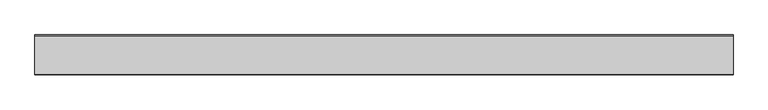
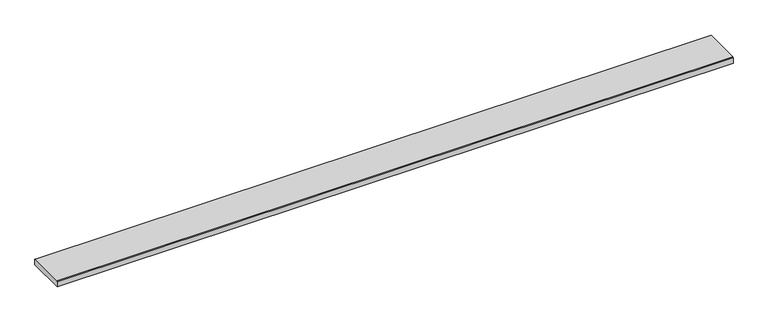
"""IFC4 building model written with IfcOpenShell, lengths in millimetres: proxy geometry."""

from ifc_helpers import new_model, si_unit, frame, origin, place, context, project, spatial, polyline, outline, extrude, source, transform, mapped, element, save


def generic_models_bd2edabb(model_context):
    return source(origin(), model_context, "Body", "SweptSolid", [
        extrude(outline(polyline([(0.0, 20.868936), (2.245064, 23.114), (137.454936, 23.114), (139.7, 20.868936), (139.7, 0.0), (0.0, 0.0), (0.0, 20.868936)])), frame((0.0, 0.0, 0.0), z_axis=(1.0, 0.0, 0.0), x_axis=(0.0, 1.0, 0.0)), (0.0, 0.0, 1.0), 2438.4),
    ])


if __name__ == "__main__":
    model = new_model("IFC4")
    model_context = context("Model", 3, world=origin())
    ifc_project = project(units=[si_unit("LENGTHUNIT", "METRE", prefix="MILLI")], contexts=[model_context])
    site = spatial("IfcSite", under=ifc_project)
    building = spatial("IfcBuilding", under=site)
    placement = place(None, origin())
    generic_models_shape = generic_models_bd2edabb(model_context)
    element("IfcBuildingElementProxy", 1, Name="540 Series Reversible Trim (Fiber) : 540 Series Reversible Trim (Fiber) - 5.5\"", ObjectType="540 Series Reversible Trim (Fiber) : 540 Series Reversible Trim (Fiber) - 5.5\"", at=placement, inside=building, context=model_context, shape_type="MappedRepresentation", body=[
        mapped(generic_models_shape, transform((0.0, 0.0, 0.0), x_axis=(1.0, 0.0, 0.0), y_axis=(0.0, 1.0, 0.0), z_axis=(0.0, 0.0, 1.0))),
    ])
    save(model, "model.ifc")
